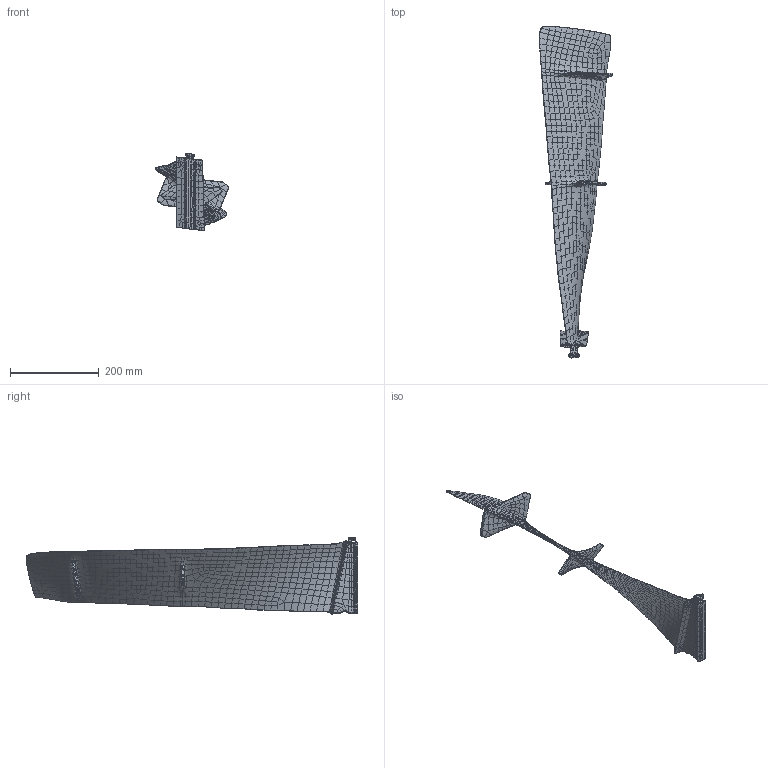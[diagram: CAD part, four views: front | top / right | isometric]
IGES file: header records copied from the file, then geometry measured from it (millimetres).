
Start section: Geomagic Studio
Global section: file name: C:\Users\rhensley\Desktop\Blade Demo Nurbs.igs; native system: Geomagic -- Wrap 2015; preprocessor: 2015; author: <unspecified>; organization: <unspecified>; date: 20160725.143446; units: inch
Bounding box: 164.77 x 747.25 x 174.3 mm (x, y, z)
Surface area: 294387.5 mm2 (no closed solid volume)
Topology: 0 solids, 0 shells, 2595 faces, 10380 edges, 10380 vertices
Faces by surface type: bspline 2595
